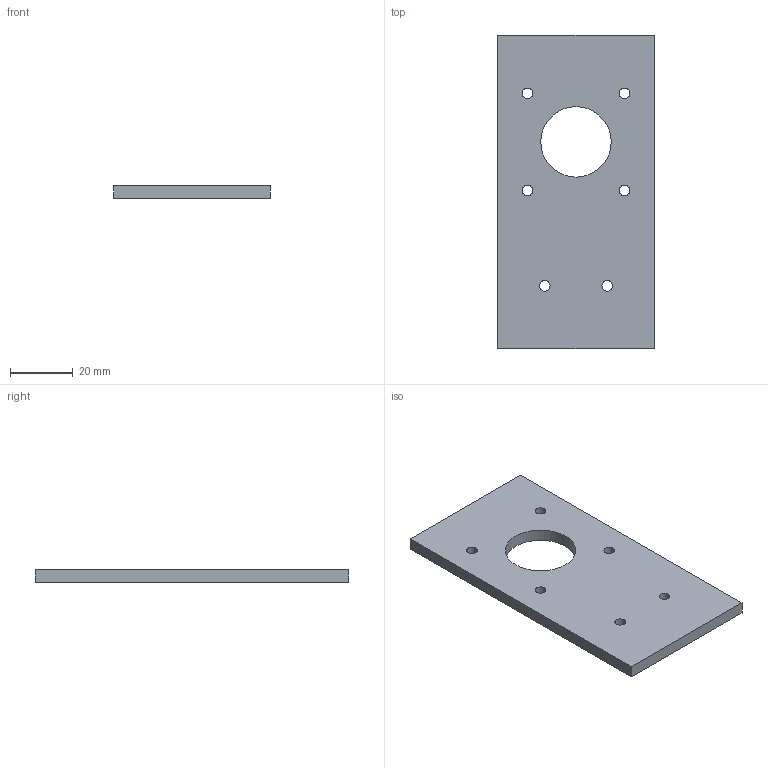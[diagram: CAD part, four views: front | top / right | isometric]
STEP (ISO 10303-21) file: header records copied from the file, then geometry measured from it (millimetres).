
FILE_DESCRIPTION(('Open CASCADE Model'),'2;1');
FILE_NAME('Open CASCADE Shape Model','2026-10-21T12:04:46',('Author'),( 'Open CASCADE'),'Open CASCADE STEP processor 7.9','Open CASCADE 7.9' ,'Unknown');
FILE_SCHEMA(('AUTOMOTIVE_DESIGN { 1 0 10303 214 1 1 1 1 }'));
Length unit declared in the file: millimetre
Products named in the file (1): Open CASCADE STEP translator 7.9 6
Bounding box: 50 x 100 x 4 mm (x, y, z)
Volume: 18191.7 mm3; surface area: 10834.9 mm2
Topology: 1 solids, 1 shells, 13 faces, 33 edges, 22 vertices
Faces by surface type: cylinder 7, plane 6
Full cylindrical faces by diameter (mm): 3.4 x6, 22.5 x1
Entity records: 910 total; most frequent: CARTESIAN_POINT 219, DIRECTION 127, LINE 71, VECTOR 71, ORIENTED_EDGE 66, PCURVE 66, DEFINITIONAL_REPRESENTATION 66, EDGE_CURVE 33
